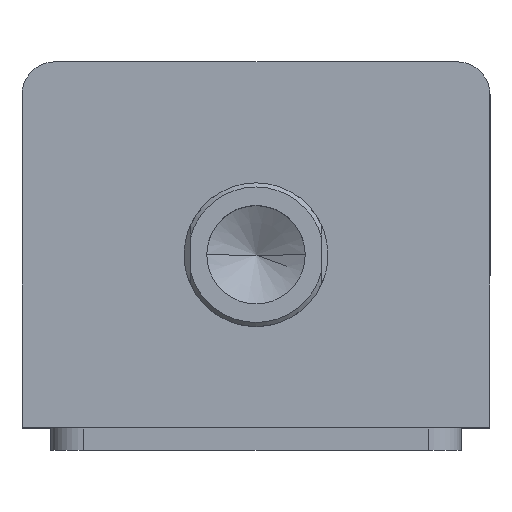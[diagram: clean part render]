
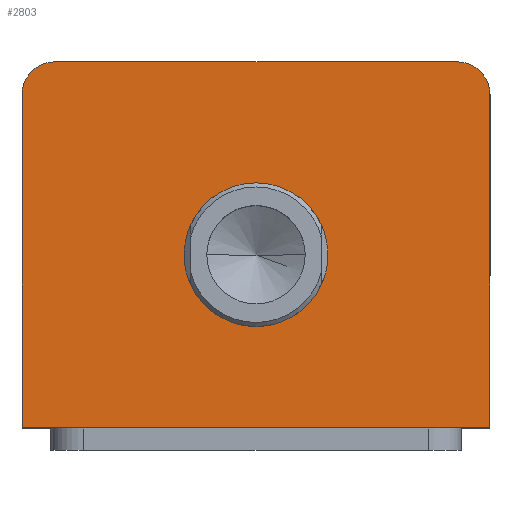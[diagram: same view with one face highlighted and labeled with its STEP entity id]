
A CAD part, top view. The second image highlights one B-rep face of the part: STEP entity #2803.
In plain terms, the highlighted planar face has unit normal (0, 0, 1).
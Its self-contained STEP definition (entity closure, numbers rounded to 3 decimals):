
#3 = CIRCLE ( 'NONE', #2242, 8. ) ;
#14 = CIRCLE ( 'NONE', #2235, 8. ) ;
#118 = EDGE_CURVE ( 'NONE', #3409, #3399, #14, .T. ) ;
#127 = EDGE_CURVE ( 'NONE', #3369, #3348, #3, .T. ) ;
#193 = CIRCLE ( 'NONE', #2320, 17.5 ) ;
#247 = DIRECTION ( 'NONE',  ( -1., 0., 0. ) ) ;
#250 = CARTESIAN_POINT ( 'NONE',  ( -57., 44.5, 147. ) ) ;
#316 = DIRECTION ( 'NONE',  ( 1., 0., 0. ) ) ;
#317 = CARTESIAN_POINT ( 'NONE',  ( -57., -44.5, 147. ) ) ;
#488 = EDGE_CURVE ( 'NONE', #3387, #3383, #773, .T. ) ;
#497 = EDGE_CURVE ( 'NONE', #3385, #3409, #886, .T. ) ;
#773 = CIRCLE ( 'NONE', #2252, 17.5 ) ;
#798 = VECTOR ( 'NONE', #247, 1000. ) ;
#801 = LINE ( 'NONE', #250, #798 ) ;
#885 = VECTOR ( 'NONE', #1563, 1000. ) ;
#886 = LINE ( 'NONE', #1564, #885 ) ;
#1097 = ORIENTED_EDGE ( 'NONE', *, *, #488, .F. ) ;
#1098 = ORIENTED_EDGE ( 'NONE', *, *, #2117, .F. ) ;
#1099 = ORIENTED_EDGE ( 'NONE', *, *, #1448, .T. ) ;
#1100 = ORIENTED_EDGE ( 'NONE', *, *, #127, .T. ) ;
#1101 = ORIENTED_EDGE ( 'NONE', *, *, #3313, .T. ) ;
#1102 = ORIENTED_EDGE ( 'NONE', *, *, #1432, .T. ) ;
#1103 = ORIENTED_EDGE ( 'NONE', *, *, #497, .T. ) ;
#1104 = ORIENTED_EDGE ( 'NONE', *, *, #118, .T. ) ;
#1432 = EDGE_CURVE ( 'NONE', #3381, #3385, #3063, .T. ) ;
#1448 = EDGE_CURVE ( 'NONE', #3399, #3369, #801, .T. ) ;
#1467 = DIRECTION ( 'NONE',  ( 1., 0., 0. ) ) ;
#1473 = DIRECTION ( 'NONE',  ( 0., 0., 1. ) ) ;
#1478 = CARTESIAN_POINT ( 'NONE',  ( 49., 36.5, 147. ) ) ;
#1563 = DIRECTION ( 'NONE',  ( 0., 1., 0. ) ) ;
#1564 = CARTESIAN_POINT ( 'NONE',  ( 57., 44.5, 147. ) ) ;
#1591 = DIRECTION ( 'NONE',  ( 1., 0., 0. ) ) ;
#1593 = DIRECTION ( 'NONE',  ( 0., 0., 1. ) ) ;
#1595 = CARTESIAN_POINT ( 'NONE',  ( 0., -2.5, 147. ) ) ;
#1662 = DIRECTION ( 'NONE',  ( 1., 0., 0. ) ) ;
#1663 = DIRECTION ( 'NONE',  ( 0., 0., 1. ) ) ;
#1664 = CARTESIAN_POINT ( 'NONE',  ( -49., 36.5, 147. ) ) ;
#1699 = FACE_OUTER_BOUND ( 'NONE', #2180, .T. ) ;
#1701 = FACE_BOUND ( 'NONE', #2210, .T. ) ;
#1748 = LINE ( 'NONE', #2682, #1751 ) ;
#1751 = VECTOR ( 'NONE', #2679, 1000. ) ;
#2117 = EDGE_CURVE ( 'NONE', #3383, #3387, #193, .T. ) ;
#2180 = EDGE_LOOP ( 'NONE', ( #1099, #1100, #1101, #1102, #1103, #1104 ) ) ;
#2210 = EDGE_LOOP ( 'NONE', ( #1097, #1098 ) ) ;
#2235 = AXIS2_PLACEMENT_3D ( 'NONE', #1478, #1473, #1467 ) ;
#2242 = AXIS2_PLACEMENT_3D ( 'NONE', #1664, #1663, #1662 ) ;
#2252 = AXIS2_PLACEMENT_3D ( 'NONE', #1595, #1593, #1591 ) ;
#2320 = AXIS2_PLACEMENT_3D ( 'NONE', #3259, #3258, #3256 ) ;
#2356 = AXIS2_PLACEMENT_3D ( 'NONE', #2681, #2652, #2647 ) ;
#2551 = CARTESIAN_POINT ( 'NONE',  ( 57., 36.5, 147. ) ) ;
#2567 = CARTESIAN_POINT ( 'NONE',  ( 49., 44.5, 147. ) ) ;
#2586 = CARTESIAN_POINT ( 'NONE',  ( 17.5, -2.5, 147. ) ) ;
#2588 = CARTESIAN_POINT ( 'NONE',  ( 57., -44.5, 147. ) ) ;
#2593 = CARTESIAN_POINT ( 'NONE',  ( -17.5, -2.5, 147. ) ) ;
#2595 = CARTESIAN_POINT ( 'NONE',  ( -57., -44.5, 147. ) ) ;
#2611 = CARTESIAN_POINT ( 'NONE',  ( -49., 44.5, 147. ) ) ;
#2638 = CARTESIAN_POINT ( 'NONE',  ( -57., 36.5, 147. ) ) ;
#2647 = DIRECTION ( 'NONE',  ( 1., 0., 0. ) ) ;
#2652 = DIRECTION ( 'NONE',  ( 0., 0., 1. ) ) ;
#2658 = PLANE ( 'NONE',  #2356 ) ;
#2679 = DIRECTION ( 'NONE',  ( 0., -1., 0. ) ) ;
#2681 = CARTESIAN_POINT ( 'NONE',  ( 0., 0., 147. ) ) ;
#2682 = CARTESIAN_POINT ( 'NONE',  ( -57., 44.5, 147. ) ) ;
#2803 = ADVANCED_FACE ( 'NONE', ( #1701, #1699 ), #2658, .T. ) ;
#3059 = VECTOR ( 'NONE', #316, 1000. ) ;
#3063 = LINE ( 'NONE', #317, #3059 ) ;
#3256 = DIRECTION ( 'NONE',  ( 1., 0., 0. ) ) ;
#3258 = DIRECTION ( 'NONE',  ( 0., 0., 1. ) ) ;
#3259 = CARTESIAN_POINT ( 'NONE',  ( 0., -2.5, 147. ) ) ;
#3313 = EDGE_CURVE ( 'NONE', #3348, #3381, #1748, .T. ) ;
#3348 = VERTEX_POINT ( 'NONE', #2638 ) ;
#3369 = VERTEX_POINT ( 'NONE', #2611 ) ;
#3381 = VERTEX_POINT ( 'NONE', #2595 ) ;
#3383 = VERTEX_POINT ( 'NONE', #2593 ) ;
#3385 = VERTEX_POINT ( 'NONE', #2588 ) ;
#3387 = VERTEX_POINT ( 'NONE', #2586 ) ;
#3399 = VERTEX_POINT ( 'NONE', #2567 ) ;
#3409 = VERTEX_POINT ( 'NONE', #2551 ) ;
